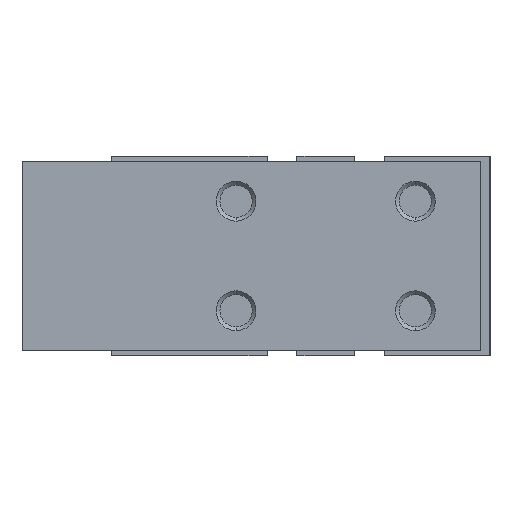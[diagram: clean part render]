
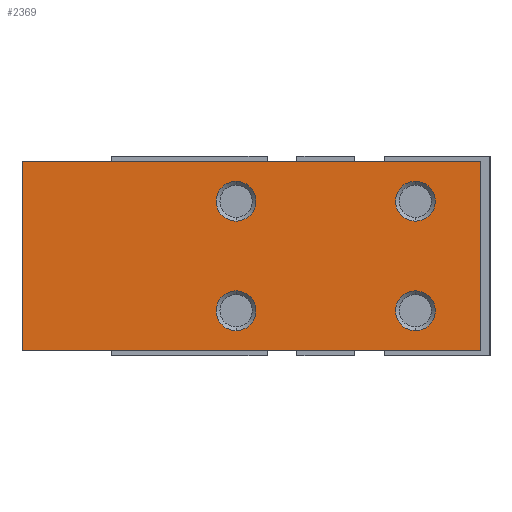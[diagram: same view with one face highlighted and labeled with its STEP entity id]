
A CAD part, left-side view. The second image highlights one B-rep face of the part: STEP entity #2369.
In plain terms, the highlighted planar face has unit normal (-1, 0, 0).
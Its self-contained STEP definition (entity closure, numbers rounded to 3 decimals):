
#68 = LINE ( 'NONE', #5727, #824 ) ;
#84 = FACE_OUTER_BOUND ( 'NONE', #6054, .T. ) ;
#163 = CARTESIAN_POINT ( 'NONE',  ( -11.5, 9., 5.5 ) ) ;
#248 = EDGE_CURVE ( 'NONE', #3179, #5110, #68, .T. ) ;
#393 = ORIENTED_EDGE ( 'NONE', *, *, #4941, .F. ) ;
#471 = AXIS2_PLACEMENT_3D ( 'NONE', #2574, #5405, #1527 ) ;
#516 = LINE ( 'NONE', #1398, #1539 ) ;
#519 = DIRECTION ( 'NONE',  ( 0., 0., 1. ) ) ;
#595 = EDGE_CURVE ( 'NONE', #4515, #5110, #1249, .T. ) ;
#751 = CIRCLE ( 'NONE', #2761, 2. ) ;
#777 = CIRCLE ( 'NONE', #5096, 2. ) ;
#799 = EDGE_LOOP ( 'NONE', ( #3607, #393 ) ) ;
#824 = VECTOR ( 'NONE', #5756, 1000. ) ;
#825 = VERTEX_POINT ( 'NONE', #3873 ) ;
#907 = LINE ( 'NONE', #5249, #1673 ) ;
#934 = ORIENTED_EDGE ( 'NONE', *, *, #4712, .F. ) ;
#1249 = LINE ( 'NONE', #5690, #2440 ) ;
#1378 = DIRECTION ( 'NONE',  ( 0., 0., -1. ) ) ;
#1398 = CARTESIAN_POINT ( 'NONE',  ( -11.5, 30.5, 9.5 ) ) ;
#1432 = VERTEX_POINT ( 'NONE', #2522 ) ;
#1442 = EDGE_LOOP ( 'NONE', ( #4785, #934 ) ) ;
#1461 = CIRCLE ( 'NONE', #1657, 2. ) ;
#1527 = DIRECTION ( 'NONE',  ( 0., 0., 1. ) ) ;
#1539 = VECTOR ( 'NONE', #2000, 1000. ) ;
#1567 = CARTESIAN_POINT ( 'NONE',  ( -11.5, 9., 7.5 ) ) ;
#1579 = CARTESIAN_POINT ( 'NONE',  ( -11.5, -9., 7.5 ) ) ;
#1585 = CARTESIAN_POINT ( 'NONE',  ( -11.5, 9., -7.5 ) ) ;
#1657 = AXIS2_PLACEMENT_3D ( 'NONE', #163, #2969, #4508 ) ;
#1673 = VECTOR ( 'NONE', #1378, 1000. ) ;
#1732 = CARTESIAN_POINT ( 'NONE',  ( -11.5, 30.5, -9.5 ) ) ;
#1763 = AXIS2_PLACEMENT_3D ( 'NONE', #2297, #4659, #4722 ) ;
#1789 = ORIENTED_EDGE ( 'NONE', *, *, #595, .F. ) ;
#1856 = AXIS2_PLACEMENT_3D ( 'NONE', #4170, #3123, #4204 ) ;
#2000 = DIRECTION ( 'NONE',  ( 0., -1., 0. ) ) ;
#2062 = EDGE_LOOP ( 'NONE', ( #4892, #3733 ) ) ;
#2098 = VERTEX_POINT ( 'NONE', #1585 ) ;
#2246 = DIRECTION ( 'NONE',  ( 0., 0., 1. ) ) ;
#2297 = CARTESIAN_POINT ( 'NONE',  ( -11.5, -9., 5.5 ) ) ;
#2368 = EDGE_CURVE ( 'NONE', #4239, #4515, #516, .T. ) ;
#2369 = ADVANCED_FACE ( 'NONE', ( #84, #3419, #2885, #3805, #2846 ), #2382, .F. ) ;
#2382 = PLANE ( 'NONE',  #3868 ) ;
#2434 = CARTESIAN_POINT ( 'NONE',  ( -11.5, 30.5, 9.5 ) ) ;
#2440 = VECTOR ( 'NONE', #5091, 1000. ) ;
#2522 = CARTESIAN_POINT ( 'NONE',  ( -11.5, -9., 3.5 ) ) ;
#2574 = CARTESIAN_POINT ( 'NONE',  ( -11.5, 9., 5.5 ) ) ;
#2669 = ORIENTED_EDGE ( 'NONE', *, *, #5093, .F. ) ;
#2697 = EDGE_CURVE ( 'NONE', #4015, #2098, #3975, .T. ) ;
#2761 = AXIS2_PLACEMENT_3D ( 'NONE', #5900, #4451, #3605 ) ;
#2846 = FACE_BOUND ( 'NONE', #1442, .T. ) ;
#2875 = ORIENTED_EDGE ( 'NONE', *, *, #6012, .F. ) ;
#2885 = FACE_BOUND ( 'NONE', #5754, .T. ) ;
#2940 = DIRECTION ( 'NONE',  ( 1., 0., 0. ) ) ;
#2964 = CIRCLE ( 'NONE', #3565, 2. ) ;
#2969 = DIRECTION ( 'NONE',  ( -1., 0., 0. ) ) ;
#2991 = VERTEX_POINT ( 'NONE', #1579 ) ;
#3117 = DIRECTION ( 'NONE',  ( 0., 0., 1. ) ) ;
#3123 = DIRECTION ( 'NONE',  ( -1., 0., 0. ) ) ;
#3179 = VERTEX_POINT ( 'NONE', #1732 ) ;
#3185 = CARTESIAN_POINT ( 'NONE',  ( -11.5, -15.5, -9.5 ) ) ;
#3419 = FACE_BOUND ( 'NONE', #799, .T. ) ;
#3478 = VERTEX_POINT ( 'NONE', #4417 ) ;
#3565 = AXIS2_PLACEMENT_3D ( 'NONE', #5177, #3709, #2246 ) ;
#3595 = DIRECTION ( 'NONE',  ( -1., 0., 0. ) ) ;
#3605 = DIRECTION ( 'NONE',  ( 0., 0., 1. ) ) ;
#3607 = ORIENTED_EDGE ( 'NONE', *, *, #2697, .F. ) ;
#3709 = DIRECTION ( 'NONE',  ( -1., 0., 0. ) ) ;
#3733 = ORIENTED_EDGE ( 'NONE', *, *, #4063, .F. ) ;
#3737 = CARTESIAN_POINT ( 'NONE',  ( -11.5, -9., 5.5 ) ) ;
#3788 = ORIENTED_EDGE ( 'NONE', *, *, #2368, .F. ) ;
#3805 = FACE_BOUND ( 'NONE', #2062, .T. ) ;
#3868 = AXIS2_PLACEMENT_3D ( 'NONE', #5713, #2940, #5240 ) ;
#3873 = CARTESIAN_POINT ( 'NONE',  ( -11.5, -9., -7.5 ) ) ;
#3975 = CIRCLE ( 'NONE', #1856, 2. ) ;
#4015 = VERTEX_POINT ( 'NONE', #4643 ) ;
#4063 = EDGE_CURVE ( 'NONE', #825, #3478, #2964, .T. ) ;
#4170 = CARTESIAN_POINT ( 'NONE',  ( -11.5, 9., -5.5 ) ) ;
#4189 = AXIS2_PLACEMENT_3D ( 'NONE', #4507, #3595, #3117 ) ;
#4204 = DIRECTION ( 'NONE',  ( 0., 0., 1. ) ) ;
#4239 = VERTEX_POINT ( 'NONE', #2434 ) ;
#4378 = EDGE_CURVE ( 'NONE', #3478, #825, #751, .T. ) ;
#4417 = CARTESIAN_POINT ( 'NONE',  ( -11.5, -9., -3.5 ) ) ;
#4451 = DIRECTION ( 'NONE',  ( -1., 0., 0. ) ) ;
#4507 = CARTESIAN_POINT ( 'NONE',  ( -11.5, 9., -5.5 ) ) ;
#4508 = DIRECTION ( 'NONE',  ( 0., 0., 1. ) ) ;
#4515 = VERTEX_POINT ( 'NONE', #5206 ) ;
#4538 = VERTEX_POINT ( 'NONE', #5303 ) ;
#4643 = CARTESIAN_POINT ( 'NONE',  ( -11.5, 9., -3.5 ) ) ;
#4659 = DIRECTION ( 'NONE',  ( -1., 0., 0. ) ) ;
#4712 = EDGE_CURVE ( 'NONE', #4538, #5413, #1461, .T. ) ;
#4722 = DIRECTION ( 'NONE',  ( 0., 0., 1. ) ) ;
#4785 = ORIENTED_EDGE ( 'NONE', *, *, #5769, .F. ) ;
#4820 = ORIENTED_EDGE ( 'NONE', *, *, #248, .T. ) ;
#4837 = ORIENTED_EDGE ( 'NONE', *, *, #5634, .T. ) ;
#4892 = ORIENTED_EDGE ( 'NONE', *, *, #4378, .F. ) ;
#4941 = EDGE_CURVE ( 'NONE', #2098, #4015, #5688, .T. ) ;
#5086 = CIRCLE ( 'NONE', #1763, 2. ) ;
#5091 = DIRECTION ( 'NONE',  ( 0., 0., -1. ) ) ;
#5093 = EDGE_CURVE ( 'NONE', #2991, #1432, #5086, .T. ) ;
#5096 = AXIS2_PLACEMENT_3D ( 'NONE', #3737, #6119, #519 ) ;
#5110 = VERTEX_POINT ( 'NONE', #3185 ) ;
#5177 = CARTESIAN_POINT ( 'NONE',  ( -11.5, -9., -5.5 ) ) ;
#5206 = CARTESIAN_POINT ( 'NONE',  ( -11.5, -15.5, 9.5 ) ) ;
#5240 = DIRECTION ( 'NONE',  ( 0., 1., 0. ) ) ;
#5249 = CARTESIAN_POINT ( 'NONE',  ( -11.5, 30.5, 9.5 ) ) ;
#5303 = CARTESIAN_POINT ( 'NONE',  ( -11.5, 9., 3.5 ) ) ;
#5405 = DIRECTION ( 'NONE',  ( -1., 0., 0. ) ) ;
#5413 = VERTEX_POINT ( 'NONE', #1567 ) ;
#5634 = EDGE_CURVE ( 'NONE', #4239, #3179, #907, .T. ) ;
#5688 = CIRCLE ( 'NONE', #4189, 2. ) ;
#5690 = CARTESIAN_POINT ( 'NONE',  ( -11.5, -15.5, 9.5 ) ) ;
#5713 = CARTESIAN_POINT ( 'NONE',  ( -11.5, 30.5, 9.5 ) ) ;
#5727 = CARTESIAN_POINT ( 'NONE',  ( -11.5, 30.5, -9.5 ) ) ;
#5754 = EDGE_LOOP ( 'NONE', ( #2669, #2875 ) ) ;
#5756 = DIRECTION ( 'NONE',  ( 0., -1., 0. ) ) ;
#5769 = EDGE_CURVE ( 'NONE', #5413, #4538, #5901, .T. ) ;
#5900 = CARTESIAN_POINT ( 'NONE',  ( -11.5, -9., -5.5 ) ) ;
#5901 = CIRCLE ( 'NONE', #471, 2. ) ;
#6012 = EDGE_CURVE ( 'NONE', #1432, #2991, #777, .T. ) ;
#6054 = EDGE_LOOP ( 'NONE', ( #4820, #1789, #3788, #4837 ) ) ;
#6119 = DIRECTION ( 'NONE',  ( -1., 0., 0. ) ) ;
